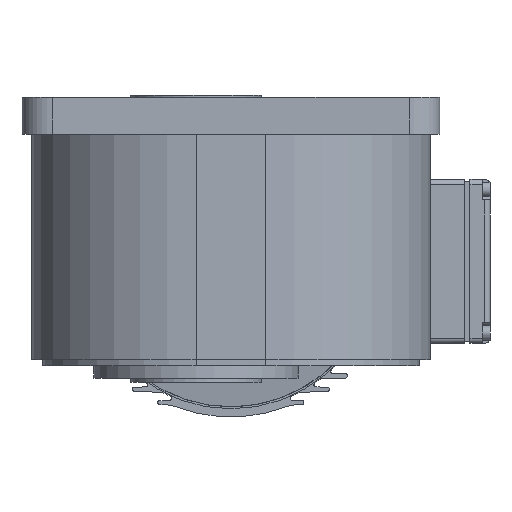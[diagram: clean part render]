
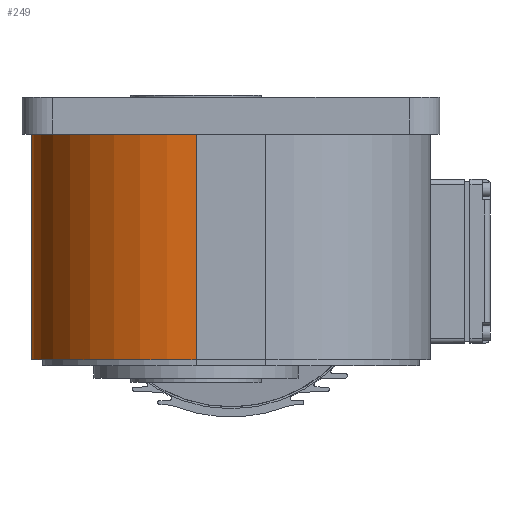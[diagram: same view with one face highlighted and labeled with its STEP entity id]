
A CAD part, left-side view. The second image highlights one B-rep face of the part: STEP entity #249.
In plain terms, the highlighted cylindrical face has radius 80.5 mm (diameter 161 mm), a partial arc.
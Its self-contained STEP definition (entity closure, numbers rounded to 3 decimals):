
#249 = ADVANCED_FACE( '', ( #1003 ), #1004, .T. );
#1003 = FACE_OUTER_BOUND( '', #2585, .T. );
#1004 = CYLINDRICAL_SURFACE( '', #2586, 80.5 );
#2585 = EDGE_LOOP( '', ( #4300, #4301, #4302, #4303 ) );
#2586 = AXIS2_PLACEMENT_3D( '', #4304, #4305, #4306 );
#4300 = ORIENTED_EDGE( '', *, *, #10420, .F. );
#4301 = ORIENTED_EDGE( '', *, *, #10421, .F. );
#4302 = ORIENTED_EDGE( '', *, *, #10372, .T. );
#4303 = ORIENTED_EDGE( '', *, *, #10422, .T. );
#4304 = CARTESIAN_POINT( '', ( -128., 0., 0. ) );
#4305 = DIRECTION( '', ( -1., 0., 0. ) );
#4306 = DIRECTION( '', ( 0., 0., -1. ) );
#10372 = EDGE_CURVE( '', #12423, #12421, #12424, .T. );
#10420 = EDGE_CURVE( '', #12516, #12517, #12518, .T. );
#10421 = EDGE_CURVE( '', #12423, #12516, #12519, .T. );
#10422 = EDGE_CURVE( '', #12421, #12517, #12520, .T. );
#12421 = VERTEX_POINT( '', #15775 );
#12423 = VERTEX_POINT( '', #15778 );
#12424 = CIRCLE( '', #15779, 80.5 );
#12516 = VERTEX_POINT( '', #15889 );
#12517 = VERTEX_POINT( '', #15890 );
#12518 = CIRCLE( '', #15891, 80.5 );
#12519 = LINE( '', #15892, #15893 );
#12520 = LINE( '', #15894, #15895 );
#15775 = CARTESIAN_POINT( '', ( -128., 0., 80.5 ) );
#15778 = CARTESIAN_POINT( '', ( -128., 80.5, 0. ) );
#15779 = AXIS2_PLACEMENT_3D( '', #20347, #20348, #20349 );
#15889 = CARTESIAN_POINT( '', ( -18., 80.5, 0. ) );
#15890 = CARTESIAN_POINT( '', ( -18., 0., 80.5 ) );
#15891 = AXIS2_PLACEMENT_3D( '', #20455, #20456, #20457 );
#15892 = CARTESIAN_POINT( '', ( -128., 80.5, 0. ) );
#15893 = VECTOR( '', #20458, 1000. );
#15894 = CARTESIAN_POINT( '', ( -128., 0., 80.5 ) );
#15895 = VECTOR( '', #20459, 1000. );
#20347 = CARTESIAN_POINT( '', ( -128., 0., 0. ) );
#20348 = DIRECTION( '', ( 1., 0., 0. ) );
#20349 = DIRECTION( '', ( 0., 0., -1. ) );
#20455 = CARTESIAN_POINT( '', ( -18., 0., 0. ) );
#20456 = DIRECTION( '', ( 1., 0., 0. ) );
#20457 = DIRECTION( '', ( 0., 0., -1. ) );
#20458 = DIRECTION( '', ( 1., 0., 0. ) );
#20459 = DIRECTION( '', ( 1., 0., 0. ) );
